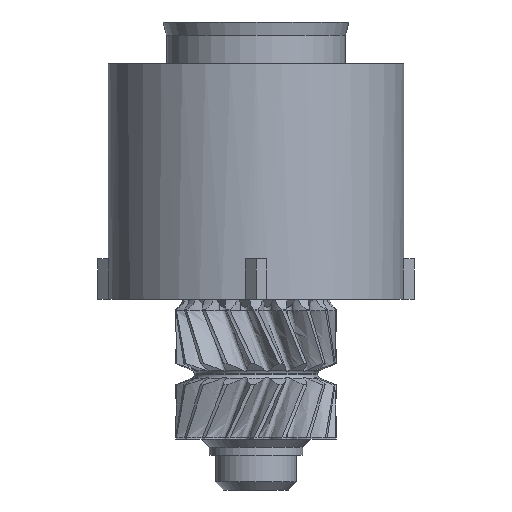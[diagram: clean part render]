
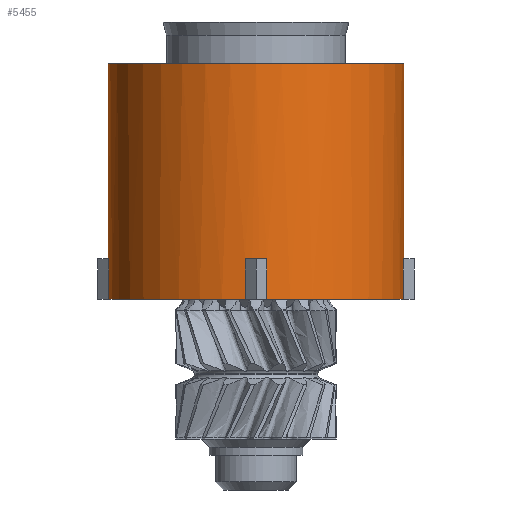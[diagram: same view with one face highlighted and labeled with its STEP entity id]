
A CAD part, front view. The second image highlights one B-rep face of the part: STEP entity #5455.
In plain terms, the highlighted cylindrical face has radius 18.2 mm (diameter 36.4 mm), a full revolution.
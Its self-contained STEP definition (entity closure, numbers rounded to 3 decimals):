
#3425 = EDGE_CURVE('',#3426,#3426,#3428,.T.);
#3426 = VERTEX_POINT('',#3427);
#3427 = CARTESIAN_POINT('',(18.2,0.,20.));
#3428 = CIRCLE('',#3429,18.2);
#3429 = AXIS2_PLACEMENT_3D('',#3430,#3431,#3432);
#3430 = CARTESIAN_POINT('',(0.,0.,20.));
#3431 = DIRECTION('',(0.,0.,1.));
#3432 = DIRECTION('',(1.,0.,0.));
#5455 = ADVANCED_FACE('',(#5456),#5610,.T.);
#5456 = FACE_BOUND('',#5457,.F.);
#5457 = EDGE_LOOP('',(#5458,#5465,#5466,#5467,#5476,#5484,#5493,#5501,
    #5510,#5518,#5527,#5535,#5544,#5552,#5561,#5569,#5578,#5586,#5595,
    #5603));
#5458 = ORIENTED_EDGE('',*,*,#5459,.F.);
#5459 = EDGE_CURVE('',#3426,#5460,#5462,.T.);
#5460 = VERTEX_POINT('',#5461);
#5461 = CARTESIAN_POINT('',(18.2,0.,-4.));
#5462 = B_SPLINE_CURVE_WITH_KNOTS('',1,(#5463,#5464),.UNSPECIFIED.,.F.,
  .F.,(2,2),(-20.,9.),.PIECEWISE_BEZIER_KNOTS.);
#5463 = CARTESIAN_POINT('',(18.2,0.,20.));
#5464 = CARTESIAN_POINT('',(18.2,0.,-9.));
#5465 = ORIENTED_EDGE('',*,*,#3425,.T.);
#5466 = ORIENTED_EDGE('',*,*,#5459,.T.);
#5467 = ORIENTED_EDGE('',*,*,#5468,.T.);
#5468 = EDGE_CURVE('',#5460,#5469,#5471,.T.);
#5469 = VERTEX_POINT('',#5470);
#5470 = CARTESIAN_POINT('',(18.15,-1.35,-4.));
#5471 = CIRCLE('',#5472,18.2);
#5472 = AXIS2_PLACEMENT_3D('',#5473,#5474,#5475);
#5473 = CARTESIAN_POINT('',(0.,0.,-4.));
#5474 = DIRECTION('',(0.,0.,-1.));
#5475 = DIRECTION('',(1.,0.,0.));
#5476 = ORIENTED_EDGE('',*,*,#5477,.F.);
#5477 = EDGE_CURVE('',#5478,#5469,#5480,.T.);
#5478 = VERTEX_POINT('',#5479);
#5479 = CARTESIAN_POINT('',(18.15,-1.35,-9.));
#5480 = LINE('',#5481,#5482);
#5481 = CARTESIAN_POINT('',(18.15,-1.35,-9.));
#5482 = VECTOR('',#5483,1.);
#5483 = DIRECTION('',(0.,0.,1.));
#5484 = ORIENTED_EDGE('',*,*,#5485,.F.);
#5485 = EDGE_CURVE('',#5486,#5478,#5488,.T.);
#5486 = VERTEX_POINT('',#5487);
#5487 = CARTESIAN_POINT('',(1.35,-18.15,-9.));
#5488 = CIRCLE('',#5489,18.2);
#5489 = AXIS2_PLACEMENT_3D('',#5490,#5491,#5492);
#5490 = CARTESIAN_POINT('',(0.,0.,-9.));
#5491 = DIRECTION('',(0.,0.,1.));
#5492 = DIRECTION('',(1.,0.,0.));
#5493 = ORIENTED_EDGE('',*,*,#5494,.T.);
#5494 = EDGE_CURVE('',#5486,#5495,#5497,.T.);
#5495 = VERTEX_POINT('',#5496);
#5496 = CARTESIAN_POINT('',(1.35,-18.15,-4.));
#5497 = LINE('',#5498,#5499);
#5498 = CARTESIAN_POINT('',(1.35,-18.15,-9.));
#5499 = VECTOR('',#5500,1.);
#5500 = DIRECTION('',(0.,0.,1.));
#5501 = ORIENTED_EDGE('',*,*,#5502,.T.);
#5502 = EDGE_CURVE('',#5495,#5503,#5505,.T.);
#5503 = VERTEX_POINT('',#5504);
#5504 = CARTESIAN_POINT('',(-1.35,-18.15,-4.));
#5505 = CIRCLE('',#5506,18.2);
#5506 = AXIS2_PLACEMENT_3D('',#5507,#5508,#5509);
#5507 = CARTESIAN_POINT('',(0.,0.,-4.));
#5508 = DIRECTION('',(0.,0.,-1.));
#5509 = DIRECTION('',(1.,0.,0.));
#5510 = ORIENTED_EDGE('',*,*,#5511,.F.);
#5511 = EDGE_CURVE('',#5512,#5503,#5514,.T.);
#5512 = VERTEX_POINT('',#5513);
#5513 = CARTESIAN_POINT('',(-1.35,-18.15,-9.));
#5514 = LINE('',#5515,#5516);
#5515 = CARTESIAN_POINT('',(-1.35,-18.15,-9.));
#5516 = VECTOR('',#5517,1.);
#5517 = DIRECTION('',(0.,0.,1.));
#5518 = ORIENTED_EDGE('',*,*,#5519,.F.);
#5519 = EDGE_CURVE('',#5520,#5512,#5522,.T.);
#5520 = VERTEX_POINT('',#5521);
#5521 = CARTESIAN_POINT('',(-18.15,-1.35,-9.));
#5522 = CIRCLE('',#5523,18.2);
#5523 = AXIS2_PLACEMENT_3D('',#5524,#5525,#5526);
#5524 = CARTESIAN_POINT('',(0.,0.,-9.));
#5525 = DIRECTION('',(0.,0.,1.));
#5526 = DIRECTION('',(1.,0.,0.));
#5527 = ORIENTED_EDGE('',*,*,#5528,.T.);
#5528 = EDGE_CURVE('',#5520,#5529,#5531,.T.);
#5529 = VERTEX_POINT('',#5530);
#5530 = CARTESIAN_POINT('',(-18.15,-1.35,-4.));
#5531 = LINE('',#5532,#5533);
#5532 = CARTESIAN_POINT('',(-18.15,-1.35,-9.));
#5533 = VECTOR('',#5534,1.);
#5534 = DIRECTION('',(0.,0.,1.));
#5535 = ORIENTED_EDGE('',*,*,#5536,.T.);
#5536 = EDGE_CURVE('',#5529,#5537,#5539,.T.);
#5537 = VERTEX_POINT('',#5538);
#5538 = CARTESIAN_POINT('',(-18.15,1.35,-4.));
#5539 = CIRCLE('',#5540,18.2);
#5540 = AXIS2_PLACEMENT_3D('',#5541,#5542,#5543);
#5541 = CARTESIAN_POINT('',(0.,0.,-4.));
#5542 = DIRECTION('',(0.,0.,-1.));
#5543 = DIRECTION('',(1.,0.,0.));
#5544 = ORIENTED_EDGE('',*,*,#5545,.F.);
#5545 = EDGE_CURVE('',#5546,#5537,#5548,.T.);
#5546 = VERTEX_POINT('',#5547);
#5547 = CARTESIAN_POINT('',(-18.15,1.35,-9.));
#5548 = LINE('',#5549,#5550);
#5549 = CARTESIAN_POINT('',(-18.15,1.35,-9.));
#5550 = VECTOR('',#5551,1.);
#5551 = DIRECTION('',(0.,0.,1.));
#5552 = ORIENTED_EDGE('',*,*,#5553,.F.);
#5553 = EDGE_CURVE('',#5554,#5546,#5556,.T.);
#5554 = VERTEX_POINT('',#5555);
#5555 = CARTESIAN_POINT('',(-1.35,18.15,-9.));
#5556 = CIRCLE('',#5557,18.2);
#5557 = AXIS2_PLACEMENT_3D('',#5558,#5559,#5560);
#5558 = CARTESIAN_POINT('',(0.,0.,-9.));
#5559 = DIRECTION('',(0.,0.,1.));
#5560 = DIRECTION('',(1.,0.,0.));
#5561 = ORIENTED_EDGE('',*,*,#5562,.T.);
#5562 = EDGE_CURVE('',#5554,#5563,#5565,.T.);
#5563 = VERTEX_POINT('',#5564);
#5564 = CARTESIAN_POINT('',(-1.35,18.15,-4.));
#5565 = LINE('',#5566,#5567);
#5566 = CARTESIAN_POINT('',(-1.35,18.15,-9.));
#5567 = VECTOR('',#5568,1.);
#5568 = DIRECTION('',(0.,0.,1.));
#5569 = ORIENTED_EDGE('',*,*,#5570,.T.);
#5570 = EDGE_CURVE('',#5563,#5571,#5573,.T.);
#5571 = VERTEX_POINT('',#5572);
#5572 = CARTESIAN_POINT('',(1.35,18.15,-4.));
#5573 = CIRCLE('',#5574,18.2);
#5574 = AXIS2_PLACEMENT_3D('',#5575,#5576,#5577);
#5575 = CARTESIAN_POINT('',(0.,0.,-4.));
#5576 = DIRECTION('',(0.,0.,-1.));
#5577 = DIRECTION('',(1.,0.,0.));
#5578 = ORIENTED_EDGE('',*,*,#5579,.F.);
#5579 = EDGE_CURVE('',#5580,#5571,#5582,.T.);
#5580 = VERTEX_POINT('',#5581);
#5581 = CARTESIAN_POINT('',(1.35,18.15,-9.));
#5582 = LINE('',#5583,#5584);
#5583 = CARTESIAN_POINT('',(1.35,18.15,-9.));
#5584 = VECTOR('',#5585,1.);
#5585 = DIRECTION('',(0.,0.,1.));
#5586 = ORIENTED_EDGE('',*,*,#5587,.F.);
#5587 = EDGE_CURVE('',#5588,#5580,#5590,.T.);
#5588 = VERTEX_POINT('',#5589);
#5589 = CARTESIAN_POINT('',(18.15,1.35,-9.));
#5590 = CIRCLE('',#5591,18.2);
#5591 = AXIS2_PLACEMENT_3D('',#5592,#5593,#5594);
#5592 = CARTESIAN_POINT('',(0.,0.,-9.));
#5593 = DIRECTION('',(0.,0.,1.));
#5594 = DIRECTION('',(1.,0.,0.));
#5595 = ORIENTED_EDGE('',*,*,#5596,.T.);
#5596 = EDGE_CURVE('',#5588,#5597,#5599,.T.);
#5597 = VERTEX_POINT('',#5598);
#5598 = CARTESIAN_POINT('',(18.15,1.35,-4.));
#5599 = LINE('',#5600,#5601);
#5600 = CARTESIAN_POINT('',(18.15,1.35,-9.));
#5601 = VECTOR('',#5602,1.);
#5602 = DIRECTION('',(0.,0.,1.));
#5603 = ORIENTED_EDGE('',*,*,#5604,.T.);
#5604 = EDGE_CURVE('',#5597,#5460,#5605,.T.);
#5605 = CIRCLE('',#5606,18.2);
#5606 = AXIS2_PLACEMENT_3D('',#5607,#5608,#5609);
#5607 = CARTESIAN_POINT('',(0.,0.,-4.));
#5608 = DIRECTION('',(0.,0.,-1.));
#5609 = DIRECTION('',(1.,0.,0.));
#5610 = CYLINDRICAL_SURFACE('',#5611,18.2);
#5611 = AXIS2_PLACEMENT_3D('',#5612,#5613,#5614);
#5612 = CARTESIAN_POINT('',(0.,0.,0.));
#5613 = DIRECTION('',(-0.,-0.,-1.));
#5614 = DIRECTION('',(1.,0.,0.));
